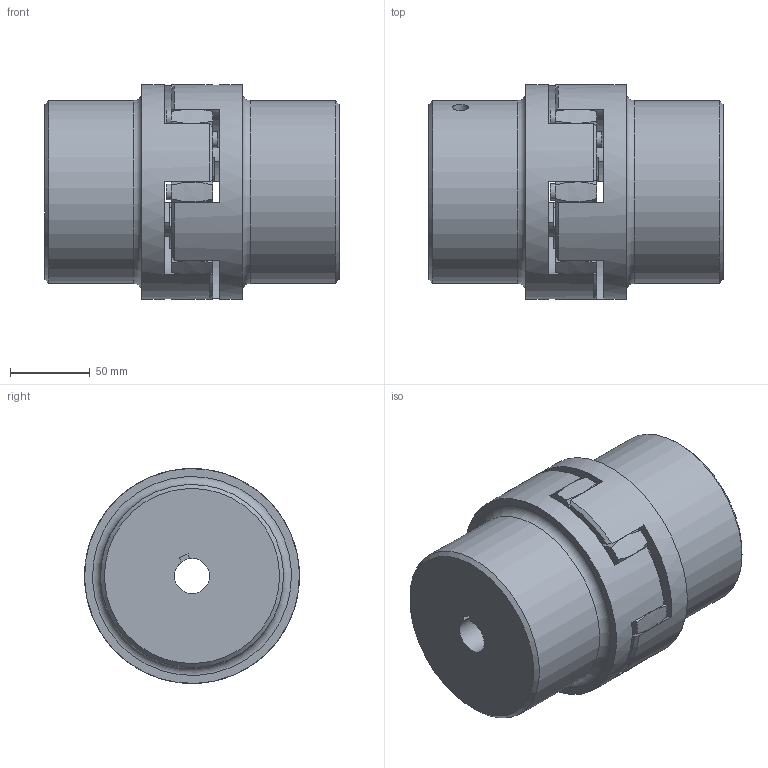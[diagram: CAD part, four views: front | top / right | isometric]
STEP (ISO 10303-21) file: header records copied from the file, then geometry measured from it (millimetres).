
FILE_DESCRIPTION(/* description */ (''),/* implementation_level */ '2;1');
FILE_NAME(/* name */ 'RP65-22-PF-22-PF',/* time_stamp */ '2024-01-05T15:29:45+01:00',/* author */ ('M. Horlacher'),/* organization */ (''),/* preprocessor_version */ 'ST-DEVELOPER v20',/* originating_system */ 'Autodesk Inventor 2024',/* authorisation */ '');
FILE_SCHEMA (('AUTOMOTIVE_DESIGN { 1 0 10303 214 3 1 1 }'));
Length unit declared in the file: millimetre
Products named in the file (4): RP STEP; RP65-Stern-92Shore; RP65-Nabe_1; RP65-Nabe_1_1
Assembly tree (3 placements, depth 2):
  RP STEP
    RP65-Stern-92Shore
    RP65-Nabe_1
    RP65-Nabe_1_1
Bounding box: 185 x 135 x 135 mm (x, y, z)
Volume: 1891148.5 mm3; surface area: 183217.7 mm2
Topology: 3 solids, 3 shells, 133 faces, 345 edges, 230 vertices
Faces by surface type: cylinder 49, plane 40, bspline 32, cone 10, torus 2
Full cylindrical faces by diameter (mm): 10 x10, 68 x1, 115 x2, 135 x2
Entity records: 5462 total; most frequent: CARTESIAN_POINT 2101, ORIENTED_EDGE 690, DIRECTION 661, EDGE_CURVE 345, AXIS2_PLACEMENT_3D 288, VERTEX_POINT 230, CIRCLE 160, EDGE_LOOP 151
